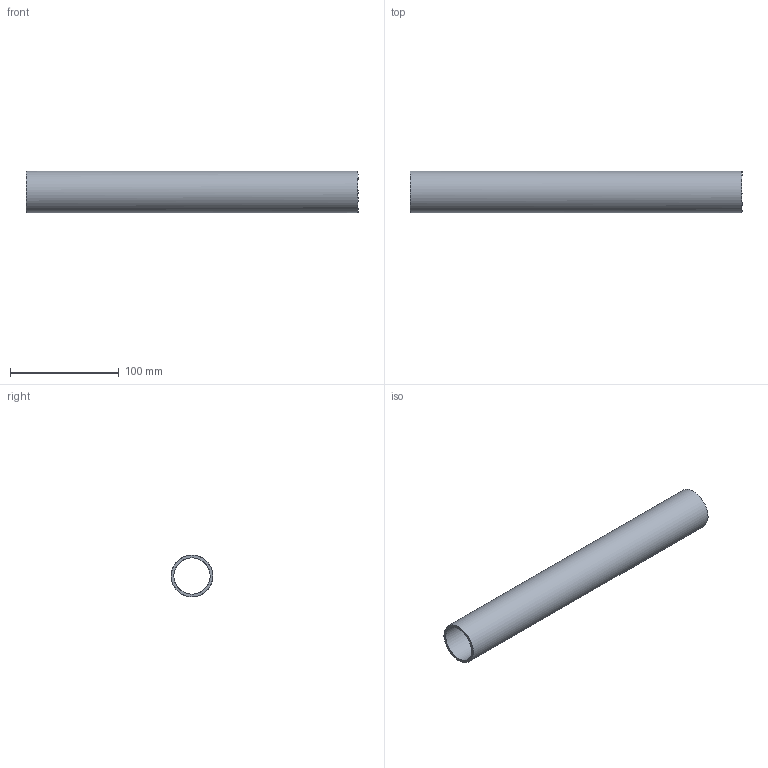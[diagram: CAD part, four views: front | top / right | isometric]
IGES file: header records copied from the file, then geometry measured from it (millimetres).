
Start section: TUBESHOP-BUNDLE-V1 eyJ0dWJlc2hvcCI6MSwia2luZCI6InR1YmVzaG9wLmJ1bmRsZSIsImFwcFZlcnNpb24iOiIx LjEwLjkiLCJuYW1lIjoiUVMxMDkgUXVpY2sgc3RhcnQgZGVtb25zdHJhdGlvbiIsInNvdXJj ZSI6ImZ1c2lvbiIsIm5vdGUiOiIiLCJzdGFtcCI6MTc5MzAyOTQyMSwiY291bnQiOjEsInR1 YmVzIjpbeyJpZCI6IkIxIEJlbmQgZm9sbG93ZXIiLCJuYW1lIjoiQjEgQmVuZCBmb2xsb3dl ciIsIm9kIjoxLjUsIndhbGwiOjAuMDk1LCJzZWN0aW9uIjp7ImtpbmQiOiJyb3VuZCIsIm9k X2luIjoxLjUsIndh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
Global section: file name: B1 Bend follower_developed; native system: unknown; preprocessor: unknown; author: unknown; organization: unknown; date: 20261026.114345; units: inch
Bounding box: 304.8 x 38.1 x 38.1 mm (x, y, z)
Volume: 82477.8 mm3; surface area: 68910.6 mm2
Topology: 1 solids, 1 shells, 4 faces, 10 edges, 8 vertices
Faces by surface type: bspline 4
